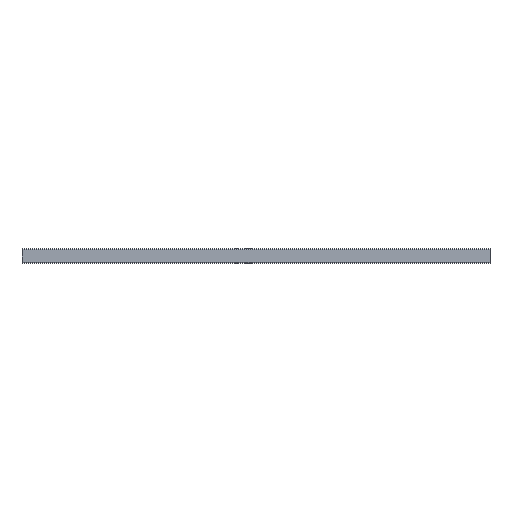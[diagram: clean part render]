
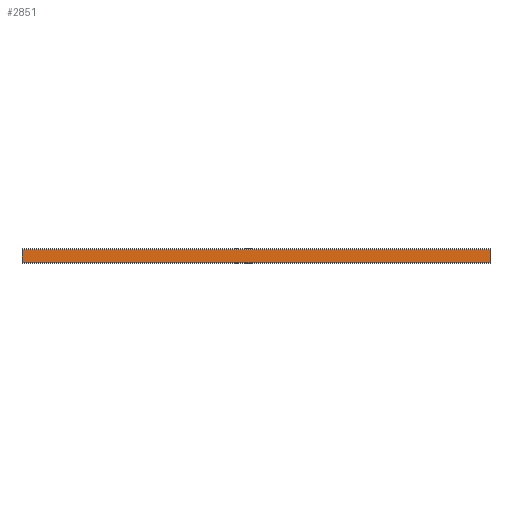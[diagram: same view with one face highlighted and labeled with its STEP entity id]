
A CAD part, top view. The second image highlights one B-rep face of the part: STEP entity #2851.
In plain terms, the highlighted planar face has unit normal (0, 0, 1).
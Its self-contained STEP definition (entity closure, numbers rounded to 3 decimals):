
#245 = CARTESIAN_POINT ( 'NONE',  ( 1000., -13., 15. ) ) ;
#342 = VECTOR ( 'NONE', #3227, 1000. ) ;
#432 = ORIENTED_EDGE ( 'NONE', *, *, #3418, .F. ) ;
#439 = VECTOR ( 'NONE', #1702, 1000. ) ;
#478 = LINE ( 'NONE', #2504, #2802 ) ;
#524 = VECTOR ( 'NONE', #1716, 1000. ) ;
#555 = DIRECTION ( 'NONE',  ( -1., 0., 0. ) ) ;
#805 = CARTESIAN_POINT ( 'NONE',  ( 0., -13., 15. ) ) ;
#991 = DIRECTION ( 'NONE',  ( -1., 0., 0. ) ) ;
#1082 = EDGE_LOOP ( 'NONE', ( #2810, #1951, #432, #1561 ) ) ;
#1255 = LINE ( 'NONE', #2005, #439 ) ;
#1333 = LINE ( 'NONE', #3826, #524 ) ;
#1553 = VERTEX_POINT ( 'NONE', #3724 ) ;
#1561 = ORIENTED_EDGE ( 'NONE', *, *, #2545, .T. ) ;
#1702 = DIRECTION ( 'NONE',  ( 0., -1., 0. ) ) ;
#1716 = DIRECTION ( 'NONE',  ( -1., 0., 0. ) ) ;
#1737 = CARTESIAN_POINT ( 'NONE',  ( 1000., -13., 15. ) ) ;
#1803 = VERTEX_POINT ( 'NONE', #3241 ) ;
#1816 = VERTEX_POINT ( 'NONE', #1737 ) ;
#1951 = ORIENTED_EDGE ( 'NONE', *, *, #2344, .F. ) ;
#2005 = CARTESIAN_POINT ( 'NONE',  ( 1000., -13., 15. ) ) ;
#2128 = AXIS2_PLACEMENT_3D ( 'NONE', #245, #2368, #555 ) ;
#2344 = EDGE_CURVE ( 'NONE', #1816, #1803, #478, .T. ) ;
#2368 = DIRECTION ( 'NONE',  ( 0., 0., -1. ) ) ;
#2504 = CARTESIAN_POINT ( 'NONE',  ( 1000., -13., 15. ) ) ;
#2545 = EDGE_CURVE ( 'NONE', #3394, #1553, #1333, .T. ) ;
#2802 = VECTOR ( 'NONE', #991, 1000. ) ;
#2810 = ORIENTED_EDGE ( 'NONE', *, *, #3454, .T. ) ;
#2851 = ADVANCED_FACE ( 'NONE', ( #3049 ), #2971, .F. ) ;
#2971 = PLANE ( 'NONE',  #2128 ) ;
#3049 = FACE_OUTER_BOUND ( 'NONE', #1082, .T. ) ;
#3189 = CARTESIAN_POINT ( 'NONE',  ( 1000., 13., 15. ) ) ;
#3227 = DIRECTION ( 'NONE',  ( 0., -1., 0. ) ) ;
#3241 = CARTESIAN_POINT ( 'NONE',  ( 0., -13., 15. ) ) ;
#3394 = VERTEX_POINT ( 'NONE', #3189 ) ;
#3418 = EDGE_CURVE ( 'NONE', #3394, #1816, #1255, .T. ) ;
#3454 = EDGE_CURVE ( 'NONE', #1553, #1803, #3472, .T. ) ;
#3472 = LINE ( 'NONE', #805, #342 ) ;
#3724 = CARTESIAN_POINT ( 'NONE',  ( 0., 13., 15. ) ) ;
#3826 = CARTESIAN_POINT ( 'NONE',  ( 1000., 13., 15. ) ) ;
